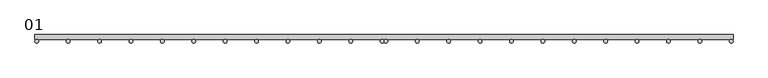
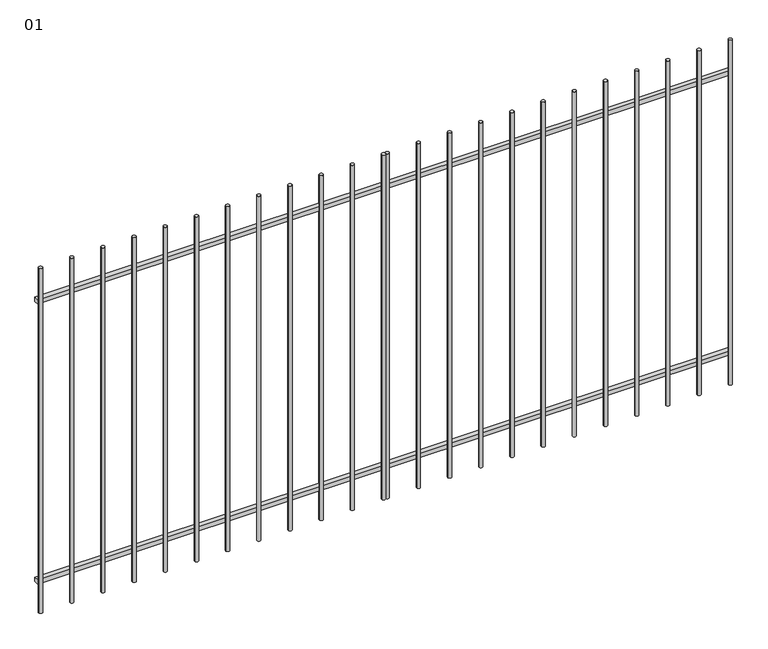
"""IFC4 building model written with IfcOpenShell, lengths in millimetres: plate geometry, pnl - PORTÃO DE ABRIR 01 - 2 FOLHAS : 01."""

from ifc_helpers import new_model, si_unit, point, frame, frame_2d, origin, place, context, project, spatial, polyline, circle_curve, trimmed, segment, composite_curve, outline, extrude, source, transform, mapped, element, save


def plate_01_dc694022(model_context):
    return source(origin(), model_context, "Body", "SweptSolid", [
        extrude(outline(composite_curve([segment(trimmed(circle_curve(frame_2d((178.3997217, 0.0)), 10.0), [point((168.3997217, 0.0))], [point((188.3997217, 0.0))], False, "CARTESIAN"), True, "CONTINUOUS"), segment(trimmed(circle_curve(frame_2d((178.3997217, 0.0)), 10.0), [point((188.3997217, 0.0))], [point((168.3997217, 0.0))], False, "CARTESIAN"), True, "CONTINUOUS")], self_intersect=False)), frame((0.0, 0.0, 30.0), z_axis=(0.0, 0.0, 1.0), x_axis=(1.0, 0.0, 0.0)), (0.0, 0.0, 1.0), 1970.0),
        extrude(outline(composite_curve([segment(trimmed(circle_curve(frame_2d((346.7994435, 0.0)), 10.0), [point((336.7994435, 0.0))], [point((356.7994435, 0.0))], False, "CARTESIAN"), True, "CONTINUOUS"), segment(trimmed(circle_curve(frame_2d((346.7994435, 0.0)), 10.0), [point((356.7994435, 0.0))], [point((336.7994435, 0.0))], False, "CARTESIAN"), True, "CONTINUOUS")], self_intersect=False)), frame((0.0, 0.0, 30.0), z_axis=(0.0, 0.0, 1.0), x_axis=(1.0, 0.0, 0.0)), (0.0, 0.0, 1.0), 1970.0),
        extrude(outline(composite_curve([segment(trimmed(circle_curve(frame_2d((515.1991652, 0.0)), 10.0), [point((505.1991652, 0.0))], [point((525.1991652, 0.0))], False, "CARTESIAN"), True, "CONTINUOUS"), segment(trimmed(circle_curve(frame_2d((515.1991652, 0.0)), 10.0), [point((525.1991652, 0.0))], [point((505.1991652, 0.0))], False, "CARTESIAN"), True, "CONTINUOUS")], self_intersect=False)), frame((0.0, 0.0, 30.0), z_axis=(0.0, 0.0, 1.0), x_axis=(1.0, 0.0, 0.0)), (0.0, 0.0, 1.0), 1970.0),
        extrude(outline(composite_curve([segment(trimmed(circle_curve(frame_2d((-178.3997217, 0.0)), 10.0), [point((-188.3997217, 0.0))], [point((-168.3997217, 0.0))], False, "CARTESIAN"), True, "CONTINUOUS"), segment(trimmed(circle_curve(frame_2d((-178.3997217, 0.0)), 10.0), [point((-168.3997217, 0.0))], [point((-188.3997217, 0.0))], False, "CARTESIAN"), True, "CONTINUOUS")], self_intersect=False)), frame((0.0, 0.0, 30.0), z_axis=(0.0, 0.0, 1.0), x_axis=(1.0, 0.0, 0.0)), (0.0, 0.0, 1.0), 1970.0),
        extrude(outline(composite_curve([segment(trimmed(circle_curve(frame_2d((-346.7994435, 0.0)), 10.0), [point((-356.7994435, 0.0))], [point((-336.7994435, 0.0))], False, "CARTESIAN"), True, "CONTINUOUS"), segment(trimmed(circle_curve(frame_2d((-346.7994435, 0.0)), 10.0), [point((-336.7994435, 0.0))], [point((-356.7994435, 0.0))], False, "CARTESIAN"), True, "CONTINUOUS")], self_intersect=False)), frame((0.0, 0.0, 30.0), z_axis=(0.0, 0.0, 1.0), x_axis=(1.0, 0.0, 0.0)), (0.0, 0.0, 1.0), 1970.0),
        extrude(outline(composite_curve([segment(trimmed(circle_curve(frame_2d((-515.1991652, 0.0)), 10.0), [point((-525.1991652, 0.0))], [point((-505.1991652, 0.0))], False, "CARTESIAN"), True, "CONTINUOUS"), segment(trimmed(circle_curve(frame_2d((-515.1991652, 0.0)), 10.0), [point((-505.1991652, 0.0))], [point((-525.1991652, 0.0))], False, "CARTESIAN"), True, "CONTINUOUS")], self_intersect=False)), frame((0.0, 0.0, 30.0), z_axis=(0.0, 0.0, 1.0), x_axis=(1.0, 0.0, 0.0)), (0.0, 0.0, 1.0), 1970.0),
        extrude(outline(composite_curve([segment(trimmed(circle_curve(frame_2d((683.5988869, 0.0)), 10.0), [point((673.5988869, 0.0))], [point((693.5988869, 0.0))], False, "CARTESIAN"), True, "CONTINUOUS"), segment(trimmed(circle_curve(frame_2d((683.5988869, 0.0)), 10.0), [point((693.5988869, 0.0))], [point((673.5988869, 0.0))], False, "CARTESIAN"), True, "CONTINUOUS")], self_intersect=False)), frame((0.0, 0.0, 30.0), z_axis=(0.0, 0.0, 1.0), x_axis=(1.0, 0.0, 0.0)), (0.0, 0.0, 1.0), 1970.0),
        extrude(outline(composite_curve([segment(trimmed(circle_curve(frame_2d((851.9986087, 0.0)), 10.0), [point((841.9986087, 0.0))], [point((861.9986087, 0.0))], False, "CARTESIAN"), True, "CONTINUOUS"), segment(trimmed(circle_curve(frame_2d((851.9986087, 0.0)), 10.0), [point((861.9986087, 0.0))], [point((841.9986087, 0.0))], False, "CARTESIAN"), True, "CONTINUOUS")], self_intersect=False)), frame((0.0, 0.0, 30.0), z_axis=(0.0, 0.0, 1.0), x_axis=(1.0, 0.0, 0.0)), (0.0, 0.0, 1.0), 1970.0),
        extrude(outline(composite_curve([segment(trimmed(circle_curve(frame_2d((1020.3983304, 0.0)), 10.0), [point((1010.3983304, 0.0))], [point((1030.3983304, 0.0))], False, "CARTESIAN"), True, "CONTINUOUS"), segment(trimmed(circle_curve(frame_2d((1020.3983304, 0.0)), 10.0), [point((1030.3983304, 0.0))], [point((1010.3983304, 0.0))], False, "CARTESIAN"), True, "CONTINUOUS")], self_intersect=False)), frame((0.0, 0.0, 30.0), z_axis=(0.0, 0.0, 1.0), x_axis=(1.0, 0.0, 0.0)), (0.0, 0.0, 1.0), 1970.0),
        extrude(outline(composite_curve([segment(trimmed(circle_curve(frame_2d((1188.7980521, 0.0)), 10.0), [point((1178.7980521, 0.0))], [point((1198.7980521, 0.0))], False, "CARTESIAN"), True, "CONTINUOUS"), segment(trimmed(circle_curve(frame_2d((1188.7980521, 0.0)), 10.0), [point((1198.7980521, 0.0))], [point((1178.7980521, 0.0))], False, "CARTESIAN"), True, "CONTINUOUS")], self_intersect=False)), frame((0.0, 0.0, 30.0), z_axis=(0.0, 0.0, 1.0), x_axis=(1.0, 0.0, 0.0)), (0.0, 0.0, 1.0), 1970.0),
        extrude(outline(composite_curve([segment(trimmed(circle_curve(frame_2d((-683.5988869, 0.0)), 10.0), [point((-693.5988869, 0.0))], [point((-673.5988869, 0.0))], False, "CARTESIAN"), True, "CONTINUOUS"), segment(trimmed(circle_curve(frame_2d((-683.5988869, 0.0)), 10.0), [point((-673.5988869, 0.0))], [point((-693.5988869, 0.0))], False, "CARTESIAN"), True, "CONTINUOUS")], self_intersect=False)), frame((0.0, 0.0, 30.0), z_axis=(0.0, 0.0, 1.0), x_axis=(1.0, 0.0, 0.0)), (0.0, 0.0, 1.0), 1970.0),
        extrude(outline(composite_curve([segment(trimmed(circle_curve(frame_2d((-851.9986087, 0.0)), 10.0), [point((-861.9986087, 0.0))], [point((-841.9986087, 0.0))], False, "CARTESIAN"), True, "CONTINUOUS"), segment(trimmed(circle_curve(frame_2d((-851.9986087, 0.0)), 10.0), [point((-841.9986087, 0.0))], [point((-861.9986087, 0.0))], False, "CARTESIAN"), True, "CONTINUOUS")], self_intersect=False)), frame((0.0, 0.0, 30.0), z_axis=(0.0, 0.0, 1.0), x_axis=(1.0, 0.0, 0.0)), (0.0, 0.0, 1.0), 1970.0),
        extrude(outline(composite_curve([segment(trimmed(circle_curve(frame_2d((-1020.3983304, 0.0)), 10.0), [point((-1030.3983304, 0.0))], [point((-1010.3983304, 0.0))], False, "CARTESIAN"), True, "CONTINUOUS"), segment(trimmed(circle_curve(frame_2d((-1020.3983304, 0.0)), 10.0), [point((-1010.3983304, 0.0))], [point((-1030.3983304, 0.0))], False, "CARTESIAN"), True, "CONTINUOUS")], self_intersect=False)), frame((0.0, 0.0, 30.0), z_axis=(0.0, 0.0, 1.0), x_axis=(1.0, 0.0, 0.0)), (0.0, 0.0, 1.0), 1970.0),
        extrude(outline(composite_curve([segment(trimmed(circle_curve(frame_2d((-1188.7980521, 0.0)), 10.0), [point((-1198.7980521, 0.0))], [point((-1178.7980521, 0.0))], False, "CARTESIAN"), True, "CONTINUOUS"), segment(trimmed(circle_curve(frame_2d((-1188.7980521, 0.0)), 10.0), [point((-1178.7980521, 0.0))], [point((-1198.7980521, 0.0))], False, "CARTESIAN"), True, "CONTINUOUS")], self_intersect=False)), frame((0.0, 0.0, 30.0), z_axis=(0.0, 0.0, 1.0), x_axis=(1.0, 0.0, 0.0)), (0.0, 0.0, 1.0), 1970.0),
        extrude(outline(composite_curve([segment(trimmed(circle_curve(frame_2d((1357.1977739, 0.0)), 10.0), [point((1347.1977739, 0.0))], [point((1367.1977739, 0.0))], False, "CARTESIAN"), True, "CONTINUOUS"), segment(trimmed(circle_curve(frame_2d((1357.1977739, 0.0)), 10.0), [point((1367.1977739, 0.0))], [point((1347.1977739, 0.0))], False, "CARTESIAN"), True, "CONTINUOUS")], self_intersect=False)), frame((0.0, 0.0, 30.0), z_axis=(0.0, 0.0, 1.0), x_axis=(1.0, 0.0, 0.0)), (0.0, 0.0, 1.0), 1970.0),
        extrude(outline(composite_curve([segment(trimmed(circle_curve(frame_2d((1525.5974956, 0.0)), 10.0), [point((1515.5974956, 0.0))], [point((1535.5974956, 0.0))], False, "CARTESIAN"), True, "CONTINUOUS"), segment(trimmed(circle_curve(frame_2d((1525.5974956, 0.0)), 10.0), [point((1535.5974956, 0.0))], [point((1515.5974956, 0.0))], False, "CARTESIAN"), True, "CONTINUOUS")], self_intersect=False)), frame((0.0, 0.0, 30.0), z_axis=(0.0, 0.0, 1.0), x_axis=(1.0, 0.0, 0.0)), (0.0, 0.0, 1.0), 1970.0),
        extrude(outline(composite_curve([segment(trimmed(circle_curve(frame_2d((1693.9972173, 0.0)), 10.0), [point((1683.9972173, 0.0))], [point((1703.9972173, 0.0))], False, "CARTESIAN"), True, "CONTINUOUS"), segment(trimmed(circle_curve(frame_2d((1693.9972173, 0.0)), 10.0), [point((1703.9972173, 0.0))], [point((1683.9972173, 0.0))], False, "CARTESIAN"), True, "CONTINUOUS")], self_intersect=False)), frame((0.0, 0.0, 30.0), z_axis=(0.0, 0.0, 1.0), x_axis=(1.0, 0.0, 0.0)), (0.0, 0.0, 1.0), 1970.0),
        extrude(outline(composite_curve([segment(trimmed(circle_curve(frame_2d((10.0, 0.0)), 10.0), [point((0.0, 0.0))], [point((20.0, 0.0))], False, "CARTESIAN"), True, "CONTINUOUS"), segment(trimmed(circle_curve(frame_2d((10.0, 0.0)), 10.0), [point((20.0, 0.0))], [point((0.0, 0.0))], False, "CARTESIAN"), True, "CONTINUOUS")], self_intersect=False)), frame((0.0, 0.0, 30.0), z_axis=(0.0, 0.0, 1.0), x_axis=(1.0, 0.0, 0.0)), (0.0, 0.0, 1.0), 1970.0),
        extrude(outline(composite_curve([segment(trimmed(circle_curve(frame_2d((1862.3969391, 0.0)), 10.0), [point((1852.3969391, 0.0))], [point((1872.3969391, 0.0))], False, "CARTESIAN"), True, "CONTINUOUS"), segment(trimmed(circle_curve(frame_2d((1862.3969391, 0.0)), 10.0), [point((1872.3969391, 0.0))], [point((1852.3969391, 0.0))], False, "CARTESIAN"), True, "CONTINUOUS")], self_intersect=False)), frame((0.0, 0.0, 30.0), z_axis=(0.0, 0.0, 1.0), x_axis=(1.0, 0.0, 0.0)), (0.0, 0.0, 1.0), 1970.0),
        extrude(outline(composite_curve([segment(trimmed(circle_curve(frame_2d((-1357.1977739, 0.0)), 10.0), [point((-1367.1977739, 0.0))], [point((-1347.1977739, 0.0))], False, "CARTESIAN"), True, "CONTINUOUS"), segment(trimmed(circle_curve(frame_2d((-1357.1977739, 0.0)), 10.0), [point((-1347.1977739, 0.0))], [point((-1367.1977739, 0.0))], False, "CARTESIAN"), True, "CONTINUOUS")], self_intersect=False)), frame((0.0, 0.0, 30.0), z_axis=(0.0, 0.0, 1.0), x_axis=(1.0, 0.0, 0.0)), (0.0, 0.0, 1.0), 1970.0),
        extrude(outline(composite_curve([segment(trimmed(circle_curve(frame_2d((-1525.5974956, 0.0)), 10.0), [point((-1535.5974956, 0.0))], [point((-1515.5974956, 0.0))], False, "CARTESIAN"), True, "CONTINUOUS"), segment(trimmed(circle_curve(frame_2d((-1525.5974956, 0.0)), 10.0), [point((-1515.5974956, 0.0))], [point((-1535.5974956, 0.0))], False, "CARTESIAN"), True, "CONTINUOUS")], self_intersect=False)), frame((0.0, 0.0, 30.0), z_axis=(0.0, 0.0, 1.0), x_axis=(1.0, 0.0, 0.0)), (0.0, 0.0, 1.0), 1970.0),
        extrude(outline(composite_curve([segment(trimmed(circle_curve(frame_2d((-1693.9972173, 0.0)), 10.0), [point((-1703.9972173, 0.0))], [point((-1683.9972173, 0.0))], False, "CARTESIAN"), True, "CONTINUOUS"), segment(trimmed(circle_curve(frame_2d((-1693.9972173, 0.0)), 10.0), [point((-1683.9972173, 0.0))], [point((-1703.9972173, 0.0))], False, "CARTESIAN"), True, "CONTINUOUS")], self_intersect=False)), frame((0.0, 0.0, 30.0), z_axis=(0.0, 0.0, 1.0), x_axis=(1.0, 0.0, 0.0)), (0.0, 0.0, 1.0), 1970.0),
        extrude(outline(composite_curve([segment(trimmed(circle_curve(frame_2d((-10.0, 0.0)), 10.0), [point((-20.0, 0.0))], [point((0.0, 0.0))], False, "CARTESIAN"), True, "CONTINUOUS"), segment(trimmed(circle_curve(frame_2d((-10.0, 0.0)), 10.0), [point((0.0, 0.0))], [point((-20.0, 0.0))], False, "CARTESIAN"), True, "CONTINUOUS")], self_intersect=False)), frame((0.0, 0.0, 30.0), z_axis=(0.0, 0.0, 1.0), x_axis=(1.0, 0.0, 0.0)), (0.0, 0.0, 1.0), 1970.0),
        extrude(outline(composite_curve([segment(trimmed(circle_curve(frame_2d((-1862.3969391, 0.0)), 10.0), [point((-1872.3969391, 0.0))], [point((-1852.3969391, 0.0))], False, "CARTESIAN"), True, "CONTINUOUS"), segment(trimmed(circle_curve(frame_2d((-1862.3969391, 0.0)), 10.0), [point((-1852.3969391, 0.0))], [point((-1872.3969391, 0.0))], False, "CARTESIAN"), True, "CONTINUOUS")], self_intersect=False)), frame((0.0, 0.0, 30.0), z_axis=(0.0, 0.0, 1.0), x_axis=(1.0, 0.0, 0.0)), (0.0, 0.0, 1.0), 1970.0),
        extrude(outline(polyline([(-1872.3969391, 35.0), (1872.3969391, 35.0), (1872.3969391, 10.0), (-1872.3969391, 10.0), (-1872.3969391, 35.0)])), frame((0.0, 0.0, 187.5), z_axis=(0.0, 0.0, 1.0), x_axis=(1.0, 0.0, 0.0)), (0.0, 0.0, 1.0), 25.0),
        extrude(outline(polyline([(-1872.3969391, 35.0), (1872.3969391, 35.0), (1872.3969391, 10.0), (-1872.3969391, 10.0), (-1872.3969391, 35.0)])), frame((0.0, 0.0, 1787.5), z_axis=(0.0, 0.0, 1.0), x_axis=(1.0, 0.0, 0.0)), (0.0, 0.0, 1.0), 25.0),
    ])


if __name__ == "__main__":
    model = new_model("IFC4")
    model_context = context("Model", 3, world=origin())
    ifc_project = project(units=[si_unit("LENGTHUNIT", "METRE", prefix="MILLI")], contexts=[model_context])
    site = spatial("IfcSite", under=ifc_project)
    building = spatial("IfcBuilding", under=site)
    placement = place(None, origin())
    plate_01_shape = plate_01_dc694022(model_context)
    element("IfcPlate", 1, ObjectType="pnl - PORTÃO DE ABRIR 01 - 2 FOLHAS : 01", at=placement, inside=building, context=model_context, shape_type="MappedRepresentation", body=[
        mapped(plate_01_shape, transform((0.0, 0.0, 0.0), x_axis=(1.0, 0.0, 0.0), y_axis=(0.0, 1.0, 0.0), z_axis=(0.0, 0.0, 1.0))),
    ])
    save(model, "model.ifc")
